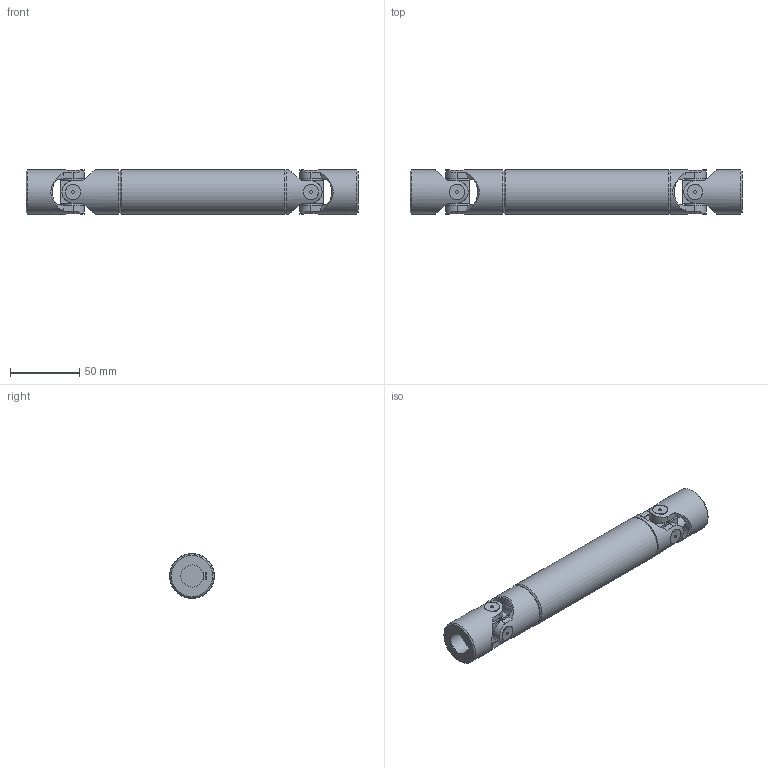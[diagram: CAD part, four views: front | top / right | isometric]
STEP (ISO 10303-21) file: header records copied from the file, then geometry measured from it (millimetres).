
FILE_DESCRIPTION(/* description */ (''),/* implementation_level */ '2;1');
FILE_NAME(/* name */ '\\SRV2016\Societa\Stefano\Disegni 3D\00Catalogo 3D\03Trasmissioni standard GA\1GA20\1GA20_SG0A1620.stp',/* time_stamp */ '2022-02-16T16:09:25+01:00',/* author */ ('acquisti'),/* organization */ (''),/* preprocessor_version */ 'ST-DEVELOPER v15.6',/* originating_system */ 'Autodesk Inventor 2015',/* authorisation */ '');
FILE_SCHEMA (('AUTOMOTIVE_DESIGN { 1 0 10303 214 3 1 1 }'));
Length unit declared in the file: millimetre
Products named in the file (5): 1GA20 LAI; 1GA20 LCI; 1G MOC; 1G SFE; 1GA20_SG0A1620
Assembly tree (6 placements, depth 2):
  1GA20_SG0A1620
    1GA20 LAI
    1GA20 LCI
    1G MOC  x2
    1G SFE  x2
Bounding box: 240 x 32.5 x 32.5 mm (x, y, z)
Volume: 143485 mm3; surface area: 54683 mm2
Topology: 6 solids, 6 shells, 228 faces, 551 edges, 359 vertices
Faces by surface type: plane 106, cylinder 93, cone 25, torus 4
Full cylindrical faces by diameter (mm): 2 x8, 15.5 x8, 16 x1, 18 x2, 27 x1, 32 x4, 32.5 x1
Entity records: 5689 total; most frequent: CARTESIAN_POINT 1639, DIRECTION 823, ORIENTED_EDGE 796, EDGE_CURVE 398, AXIS2_PLACEMENT_3D 335, VERTEX_POINT 274, EDGE_LOOP 224, FACE_OUTER_BOUND 176
